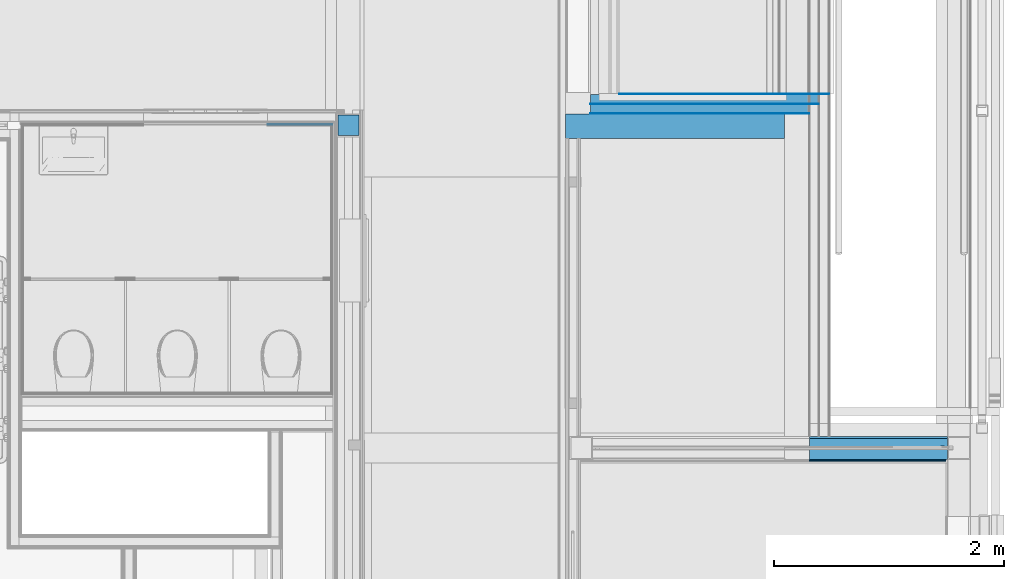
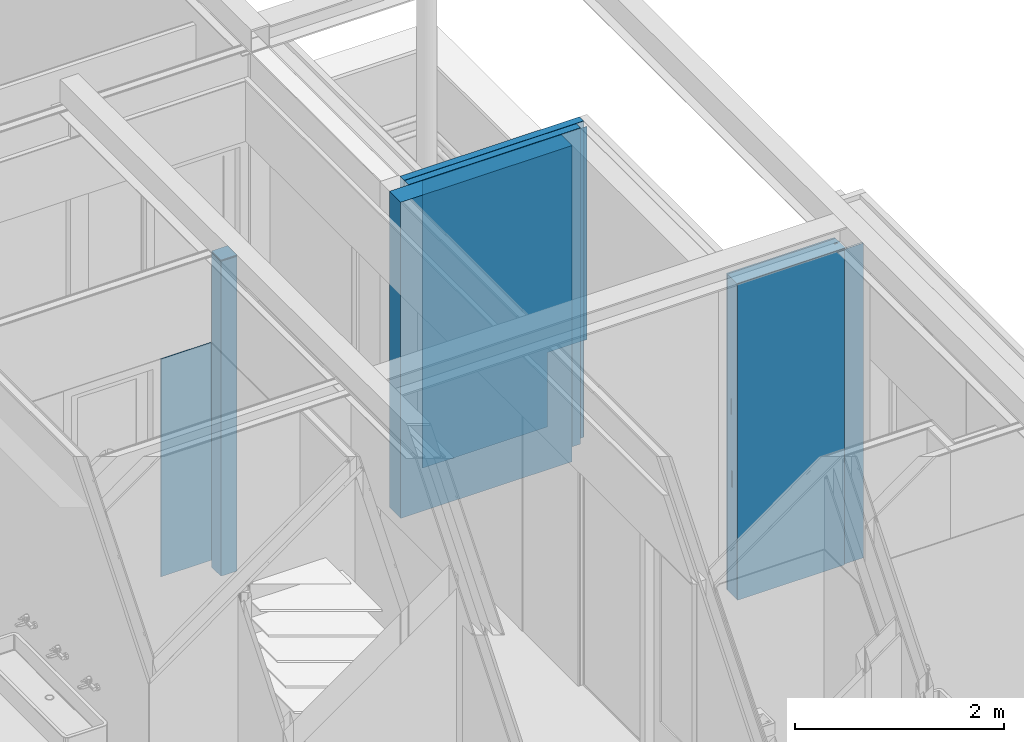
# One storey, part 88 of 137: 12 building element parts, 4 elements without a shape of their own.
"""IFC2X3 building model written with IfcOpenShell, lengths in millimetres."""

from ifc_helpers import new_model, entity, si_unit, converted_unit, derived_unit, money_unit, direction, frame, origin_with_axes, place, context, subcontext, project, spatial, faceted_brep, material, type_object, element, aggregate, save


model = new_model("IFC2X3")

# Units and contexts
model_context = context("Model", 3, precision=0.01, world=origin_with_axes(), true_north=direction((0.0, 1.0)))
body_context = subcontext(model_context, "Body", "Model", "MODEL_VIEW")
ifc_project = project(units=[si_unit("LENGTHUNIT", "METRE", prefix="MILLI"), si_unit("AREAUNIT", "SQUARE_METRE"), si_unit("VOLUMEUNIT", "CUBIC_METRE"), converted_unit("PLANEANGLEUNIT", "DEGREE", entity("IfcPlaneAngleMeasure", 0.0174532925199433), si_unit("PLANEANGLEUNIT", "RADIAN"), dimensions=[0, 0, 0, 0, 0, 0, 0]), money_unit("EUR"), converted_unit("TIMEUNIT", "Year", entity("IfcTimeMeasure", 31556926.0), si_unit("TIMEUNIT", "SECOND"), dimensions=[0, 0, 1, 0, 0, 0, 0]), si_unit("MASSUNIT", "GRAM", prefix="KILO"), si_unit("THERMODYNAMICTEMPERATUREUNIT", "DEGREE_CELSIUS"), si_unit("LUMINOUSINTENSITYUNIT", "LUMEN"), si_unit("ENERGYUNIT", "JOULE", prefix="MEGA"), derived_unit("THERMALCONDUCTANCEUNIT", [(si_unit("POWERUNIT", "WATT"), 1), (si_unit("LENGTHUNIT", "METRE"), -1), (si_unit("THERMODYNAMICTEMPERATUREUNIT", "KELVIN"), -1)]), derived_unit("SPECIFICHEATCAPACITYUNIT", [(si_unit("ENERGYUNIT", "JOULE"), 1), (si_unit("MASSUNIT", "GRAM", prefix="KILO"), -1), (si_unit("THERMODYNAMICTEMPERATUREUNIT", "KELVIN"), -1)]), derived_unit("MASSDENSITYUNIT", [(si_unit("MASSUNIT", "GRAM", prefix="KILO"), 1), (si_unit("VOLUMEUNIT", "CUBIC_METRE"), -1)])], contexts=[model_context])

# Site, building, storey
site_placement = place(None, origin_with_axes())
site = spatial("IfcSite", under=ifc_project, at=site_placement, Name="Site", CompositionType="ELEMENT")
building_placement = place(site_placement, origin_with_axes())
building = spatial("IfcBuilding", under=site, at=building_placement, Name="Naam gebouw", CompositionType="ELEMENT")
storey_placement = place(building_placement, frame((0.0, 0.0, 3960.0), z_axis=(0.0, 0.0, 1.0), x_axis=(1.0, 0.0, 0.0)))
storey = spatial("IfcBuildingStorey", under=building, at=storey_placement, Name="1e verdieping", CompositionType="ELEMENT", Elevation=3960.0)

# Wall, building element parts
wall_type_1 = type_object("IfcWallType", Name="21 STO Buitengevelisolatie 160 390", PredefinedType="NOTDEFINED")
wall_1_placement = place(storey_placement, frame((26600.0, 19550.00039292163, -100.0000000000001), z_axis=(0.0, 0.0, 1.0), x_axis=(1.0, 0.0, 0.0)))
wall_1 = element("IfcWall", 1, at=wall_1_placement, inside=storey, type_object=wall_type_1, Name="21_Wand-x")
ifc_material_1 = material(Name="STO pleisterlaag")
building_element_part_1_placement = place(wall_1_placement, origin_with_axes())
building_element_part_1 = element("IfcBuildingElementPart", 2, at=building_element_part_1_placement, material=ifc_material_1, Name="STO pleisterlaag", context=body_context, shape_type="Brep", body=[
    faceted_brep([(1637.000023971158, 173.0000000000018, 189.9999999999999), (1637.000023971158, 176.0000000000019, 189.9999999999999), (1637.000023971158, 176.0000000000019, 1060.000062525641), (1637.000023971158, 173.0000000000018, 1060.000062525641), (250.0000001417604, 176.0000000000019, 189.9999999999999), (250.0000001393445, 172.9999999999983, 189.9999999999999), (250.0000001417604, 176.0000000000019, 3555.0), (2073.000023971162, 176.0000096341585, 3555.0), (2073.000023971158, 176.0000014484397, 1060.000062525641), (2073.000023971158, 173.0000000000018, 1060.000062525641), (2073.000023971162, 173.0000000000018, 3555.0), (250.0000001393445, 173.0000000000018, 3555.0)], [[[0, 1, 2, 3]], [[4, 1, 0, 5]], [[1, 4, 6, 7, 8, 2]], [[9, 3, 2, 8]], [[5, 0, 3, 9, 10, 11]], [[4, 5, 11, 6]], [[11, 10, 7, 6]], [[8, 7, 10, 9]]]),
])
ifc_material_2 = material(Name="STO weefsellaag")
building_element_part_2_placement = place(wall_1_placement, origin_with_axes())
building_element_part_2 = element("IfcBuildingElementPart", 3, at=building_element_part_2_placement, material=ifc_material_2, Name="STO weefsellaag", context=body_context, shape_type="Brep", body=[
    faceted_brep([(1637.000023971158, 167.9999999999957, 189.9999999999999), (1637.000023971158, 173.0000000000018, 189.9999999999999), (1637.000023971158, 173.0000000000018, 1060.000062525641), (1637.000023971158, 167.9999999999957, 1060.000062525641), (250.0000001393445, 172.9999999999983, 189.9999999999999), (250.0000001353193, 167.9999999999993, 189.9999999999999), (250.0000001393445, 173.0000000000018, 3555.0), (2068.000023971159, 173.0000000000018, 3555.0), (2068.000023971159, 173.0000000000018, 1060.000062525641), (1988.000023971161, 167.9999999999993, 1060.000062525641), (2068.000023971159, 167.9999999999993, 1060.000062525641), (2068.000023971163, 168.0000000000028, 3555.0), (250.0000001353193, 168.0000000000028, 3555.0)], [[[0, 1, 2, 3]], [[4, 1, 0, 5]], [[1, 4, 6, 7, 8, 2]], [[9, 3, 2, 8, 10]], [[5, 0, 3, 9, 10, 11, 12]], [[4, 5, 12, 6]], [[12, 11, 7, 6]], [[8, 7, 11, 10]]]),
])
ifc_material_3 = material(Name="Isolatie - STO EPS")
building_element_part_3_placement = place(wall_1_placement, origin_with_axes())
building_element_part_3 = element("IfcBuildingElementPart", 4, at=building_element_part_3_placement, material=ifc_material_3, Name="Isolatie - STO EPS", context=body_context, shape_type="Brep", body=[
    faceted_brep([(76.99999999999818, 167.9999999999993, 189.9999999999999), (76.99999999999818, 167.9999999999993, 0.0), (1.353193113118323e-07, 167.9999999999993, 0.0), (1.353193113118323e-07, 167.9999999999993, 3700.0), (1988.000023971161, 167.9999999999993, 3700.0), (1988.000023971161, 167.9999999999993, 0.0), (1704.000023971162, 167.9999999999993, 0.0), (1704.000023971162, 167.9999999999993, 189.9999999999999), (76.99999999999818, 114.0000000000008, 189.9999999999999), (76.99999999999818, 114.0000000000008, 0.0), (1704.000023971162, 114.0000000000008, 0.0), (1988.000023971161, 88.00000000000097, 0.0), (7.08801906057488e-08, 88.00000000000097, 0.0), (7.08801906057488e-08, 88.00000000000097, 3700.0), (1988.000023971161, 88.00000000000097, 3700.0), (1704.000023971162, 114.0000000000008, 189.9999999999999)], [[[0, 1, 2, 3, 4, 5, 6, 7]], [[1, 0, 8, 9]], [[10, 6, 5, 11, 12, 2, 1, 9]], [[2, 12, 13, 3]], [[3, 13, 14, 4]], [[11, 5, 4, 14]], [[7, 6, 10, 15]], [[0, 7, 15, 8]], [[10, 9, 8, 15]], [[12, 11, 14, 13]]]),
])
building_element_part_4_placement = place(wall_1_placement, origin_with_axes())
building_element_part_4 = element("IfcBuildingElementPart", 5, at=building_element_part_4_placement, material=ifc_material_3, Name="Isolatie - STO EPS", context=body_context, shape_type="Brep", body=[
    faceted_brep([(6.765787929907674e-08, 83.99999999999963, 0.0), (6.765787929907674e-08, 83.99999999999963, 3700.0), (1904.000023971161, 83.99999999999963, 3700.0), (1904.000023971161, 83.99999999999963, 0.0), (3.222311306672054e-09, 4.000000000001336, 0.0), (3.222311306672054e-09, 4.000000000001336, 3700.0), (1904.000023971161, 4.000000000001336, 3700.0), (1904.000023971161, 4.000000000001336, 0.0)], [[[0, 1, 2, 3]], [[4, 5, 1, 0]], [[5, 6, 2, 1]], [[3, 2, 6, 7]], [[4, 0, 3, 7]], [[7, 6, 5, 4]]]),
])
ifc_material_4 = material(Name="STO lijmlaag")
building_element_part_5_placement = place(wall_1_placement, origin_with_axes())
building_element_part_5 = element("IfcBuildingElementPart", 6, at=building_element_part_5_placement, material=ifc_material_4, Name="STO lijmlaag", context=body_context, shape_type="Brep", body=[
    faceted_brep([(7.08801906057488e-08, 88.00000000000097, 0.0), (7.08801906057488e-08, 88.00000000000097, 3700.0), (1984.000023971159, 88.00000000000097, 3700.0), (1984.000023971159, 88.00000000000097, 0.0), (6.765787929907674e-08, 83.99999999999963, 0.0), (6.765787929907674e-08, 83.99999999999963, 3700.0), (1984.000023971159, 83.99999999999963, 3700.0), (1984.000023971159, 83.99999999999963, 0.0)], [[[0, 1, 2, 3]], [[4, 5, 1, 0]], [[5, 6, 2, 1]], [[3, 2, 6, 7]], [[4, 0, 3, 7]], [[7, 6, 5, 4]]]),
])
ifc_material_5 = material(Name="Steen - Kalkzandsteen C")
building_element_part_6_placement = place(wall_1_placement, origin_with_axes())
building_element_part_6 = element("IfcBuildingElementPart", 7, at=building_element_part_6_placement, material=ifc_material_5, Name="Steen - Kalkzandsteen C", context=body_context, shape_type="Brep", body=[
    faceted_brep([(-213.9999999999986, 0.0, 0.0), (-213.9999999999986, 0.0, 3700.0), (1686.000023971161, 0.0, 3700.0), (1686.000023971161, 0.0, 0.0), (-214.0000001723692, -213.9999999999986, 0.0), (-214.0000001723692, -213.9999999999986, 3700.0), (1686.000023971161, -213.9999999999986, 3700.0), (1686.000023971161, -213.9999999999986, 0.0)], [[[0, 1, 2, 3]], [[4, 5, 1, 0]], [[5, 6, 2, 1]], [[3, 2, 6, 7]], [[4, 0, 3, 7]], [[7, 6, 5, 4]]]),
])
building_element_part_7_placement = place(wall_1_placement, origin_with_axes())
building_element_part_7 = element("IfcBuildingElementPart", 8, at=building_element_part_7_placement, material=ifc_material_4, Name="STO lijmlaag", context=body_context, shape_type="Brep", body=[
    faceted_brep([(3.222311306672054e-09, 4.000000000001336, 0.0), (3.222311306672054e-09, 4.000000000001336, 3700.0), (1900.00002397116, 4.000000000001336, 3700.0), (1900.00002397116, 4.000000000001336, 0.0), (0.0, 0.0, 0.0), (0.0, 0.0, 3700.0), (1900.00002397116, 0.0, 3700.0), (1900.00002397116, 0.0, 0.0)], [[[0, 1, 2, 3]], [[4, 5, 1, 0]], [[5, 6, 2, 1]], [[3, 2, 6, 7]], [[4, 0, 3, 7]], [[7, 6, 5, 4]]]),
])
aggregate(wall_1, [building_element_part_1, building_element_part_2, building_element_part_3, building_element_part_4, building_element_part_5, building_element_part_6, building_element_part_7])

wall_type_2 = type_object("IfcWallType", Name="21 Buitenwand spouwmuur HSB 464", PredefinedType="NOTDEFINED")
wall_2_placement = place(storey_placement, frame((28500.00002397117, 16749.99778166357, -100.0000000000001), z_axis=(0.0, 0.0, 1.0), x_axis=(1.0, 0.0, 0.0)))
wall_2 = element("IfcWall", 9, at=wall_2_placement, inside=storey, type_object=wall_type_2, Name="21_Wand-x")
ifc_material_6 = material(Name="ALG - ISOLATIE UITVULLING")
building_element_part_8_placement = place(wall_2_placement, origin_with_axes())
building_element_part_8 = element("IfcBuildingElementPart", 10, at=building_element_part_8_placement, material=ifc_material_6, Name="ALG - ISOLATIE UITVULLING", context=body_context, shape_type="Brep", body=[
    faceted_brep([(1199.999976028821, -84.99999999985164, 3584.560364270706), (1199.999976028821, -84.99999999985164, 3680.000000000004), (1193.814908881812, -84.99999999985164, 3685.000001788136), (1126.888670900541, -84.99999999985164, 3685.000001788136), (0.0, -84.99999999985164, 2291.024080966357), (0.0, -84.99999999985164, 2100.144809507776), (1199.999976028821, -18.00000000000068, 0.0), (1199.999976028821, -18.00000000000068, 3685.000001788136), (1199.999976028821, -200.0000000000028, 3685.000001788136), (1199.999976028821, -200.0000000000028, 0.0), (1199.999976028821, -99.99999999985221, 3680.000000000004), (1199.999976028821, -99.99999999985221, 3584.560364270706), (1193.814908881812, -99.99999999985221, 3685.000001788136), (1100.999971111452, -18.00000000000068, 3685.000001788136), (1100.999971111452, -201.9999999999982, 3685.000001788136), (1399.999976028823, -201.9999999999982, 3685.000001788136), (1399.999976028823, -200.0000000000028, 3685.000001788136), (1126.888670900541, -99.99999999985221, 3685.000001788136), (0.0, -99.99999999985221, 2291.024080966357), (0.0, -18.00000000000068, 0.0), (0.0, -202.0000000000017, 0.0), (0.0, -201.9999999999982, 3700.0), (0.0, -18.00000000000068, 3700.0), (0.0, -99.99999999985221, 2100.144809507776), (0.0, -115.000000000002, 1449.855190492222), (0.0, -115.000000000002, 1258.975919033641), (0.0, -100.0000000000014, 1258.975919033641), (0.0, -100.0000000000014, 1449.855190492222), (1198.999975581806, -18.00000000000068, 3700.0), (1198.999975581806, -18.00000000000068, 3695.000001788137), (1100.999971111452, -18.00000000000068, 3695.000001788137), (1399.999976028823, -200.0000000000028, 0.0), (1399.999976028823, -201.9999999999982, 0.0), (1017.754811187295, -100.0000000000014, 0.0), (1017.754811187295, -115.000000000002, 0.0), (1172.061413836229, -115.000000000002, 0.0), (1172.061413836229, -100.0000000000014, 0.0), (1100.999971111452, -201.9999999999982, 3695.000001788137), (1198.999975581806, -201.9999999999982, 3695.000001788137), (1198.999975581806, -201.9999999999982, 3700.0), (1175.259716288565, -99.99999999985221, 3700.0), (1139.014653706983, -99.99999999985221, 3700.0), (1139.014653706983, -84.99999999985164, 3700.0), (1175.259716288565, -84.99999999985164, 3700.0), (1134.972660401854, -99.99999999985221, 3695.000001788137), (1181.444779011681, -99.99999999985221, 3695.000001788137), (1181.444779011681, -84.99999999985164, 3695.000001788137), (1134.972660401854, -84.99999999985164, 3695.000001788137)], [[[0, 1, 2, 3, 4, 5]], [[6, 7, 8, 9], [10, 1, 0, 11]], [[1, 10, 12, 2]], [[8, 7, 13, 14, 15, 16], [17, 3, 2, 12]], [[4, 3, 17, 18]], [[19, 20, 21, 22], [18, 23, 5, 4], [24, 25, 26, 27]], [[11, 0, 5, 23]], [[7, 6, 19, 22, 28, 29, 30, 13]], [[8, 16, 31, 9]], [[9, 31, 32, 20, 19, 6], [33, 34, 35, 36]], [[10, 11, 23, 18, 17, 12]], [[14, 13, 30, 37]], [[37, 38, 39, 21, 20, 32, 15, 14]], [[31, 16, 15, 32]], [[21, 39, 28, 22], [40, 41, 42, 43]], [[24, 35, 34, 25]], [[25, 34, 33, 26]], [[26, 33, 36, 27]], [[27, 36, 35, 24]], [[38, 29, 28, 39]], [[37, 30, 29, 38], [44, 45, 46, 47]], [[40, 45, 44, 41]], [[41, 44, 47, 42]], [[42, 47, 46, 43]], [[43, 46, 45, 40]]]),
    faceted_brep([(1394.999975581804, -200.0000000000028, 3695.000001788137), (1394.999975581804, -200.0000000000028, 3699.999999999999), (1394.999975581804, -201.9999999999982, 3700.0), (1394.999975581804, -201.9999999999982, 3695.000001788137), (1204.999975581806, -200.0000000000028, 3699.999999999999), (1204.999975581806, -200.0000000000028, 3695.000001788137), (1204.999975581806, -201.9999999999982, 3700.0), (1204.999975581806, -201.9999999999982, 3695.000001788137)], [[[0, 1, 2, 3]], [[4, 1, 0, 5]], [[1, 4, 6, 2]], [[7, 3, 2, 6]], [[5, 0, 3, 7]], [[4, 5, 7, 6]]]),
])
building_element_part_9_placement = place(wall_2_placement, origin_with_axes())
building_element_part_9 = element("IfcBuildingElementPart", 11, at=building_element_part_9_placement, material=ifc_material_5, Name="Steen - Kalkzandsteen C", context=body_context, shape_type="Brep", body=[
    faceted_brep([(1185.999976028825, -213.9999999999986, 3695.000001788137), (1185.999976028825, -201.9999999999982, 3695.000001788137), (1185.999976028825, -201.9999999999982, 3700.0), (1185.999976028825, -213.9999999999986, 3700.0), (1100.999971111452, -201.9999999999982, 3695.000001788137), (1100.999971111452, -213.9999999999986, 3695.000001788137), (1100.999971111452, -201.9999999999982, 3685.000001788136), (1185.999976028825, -201.9999999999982, 3685.000001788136), (1185.999976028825, -201.9999999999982, 0.0), (0.0, -202.0000000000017, 0.0), (0.0, -201.9999999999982, 3700.0), (0.0, -213.9999999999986, 3700.0), (0.0, -213.9999999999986, 0.0), (1185.999976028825, -213.9999999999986, 0.0), (1185.999976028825, -213.9999999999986, 3685.000001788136), (1100.999971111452, -213.9999999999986, 3685.000001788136)], [[[0, 1, 2, 3]], [[4, 1, 0, 5]], [[6, 7, 8, 9, 10, 2, 1, 4]], [[11, 3, 2, 10]], [[5, 0, 3, 11, 12, 13, 14, 15]], [[6, 4, 5, 15]], [[14, 7, 6, 15]], [[7, 14, 13, 8]], [[9, 8, 13, 12]], [[12, 11, 10, 9]]]),
])
ifc_material_7 = material(Name="Cementgebonden plaatmateriaal")
building_element_part_10_placement = place(wall_2_placement, origin_with_axes())
building_element_part_10 = element("IfcBuildingElementPart", 12, at=building_element_part_10_placement, material=ifc_material_7, Name="Cementgebonden plaatmateriaal", context=body_context, shape_type="Brep", body=[
    faceted_brep([(1199.999976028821, -18.00000000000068, 3685.000001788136), (1199.999976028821, 0.0, 3685.000001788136), (1100.999971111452, 0.0, 3685.000001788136), (1100.999971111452, -18.00000000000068, 3685.000001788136), (1199.999976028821, 0.0, 0.0), (1199.999976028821, -18.00000000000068, 0.0), (0.0, 0.0, 0.0), (0.0, 0.0, 3700.0), (1198.999975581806, 0.0, 3700.0), (1198.999975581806, 0.0, 3695.000001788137), (1100.999971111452, 0.0, 3695.000001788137), (1100.999971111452, -18.00000000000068, 3695.000001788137), (1198.999975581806, -18.00000000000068, 3695.000001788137), (1198.999975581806, -18.00000000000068, 3700.0), (0.0, -18.00000000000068, 3700.0), (0.0, -18.00000000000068, 0.0)], [[[0, 1, 2, 3]], [[4, 1, 0, 5]], [[1, 4, 6, 7, 8, 9, 10, 2]], [[3, 2, 10, 11]], [[5, 0, 3, 11, 12, 13, 14, 15]], [[4, 5, 15, 6]], [[6, 15, 14, 7]], [[14, 13, 8, 7]], [[12, 9, 8, 13]], [[11, 10, 9, 12]]]),
])
aggregate(wall_2, [building_element_part_8, building_element_part_9, building_element_part_10])

# Column, building element part
column_type = type_object("IfcColumnType", Name="200X200X10 200 x 200", PredefinedType="COLUMN")
column_placement = place(storey_placement, frame((24499.98347325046, 19450.00039292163, -100.0000000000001), z_axis=(0.0, 0.0, 1.0), x_axis=(1.0, 0.0, 0.0)))
column = element("IfcColumn", 13, at=column_placement, inside=storey, type_object=column_type, Name="28_Kolom-x", ObjectType="COLUMN")
ifc_material_8 = material(Name="Beton gewapend C")
building_element_part_11_placement = place(column_placement, origin_with_axes())
building_element_part_11 = element("IfcBuildingElementPart", 14, at=building_element_part_11_placement, material=ifc_material_8, Name="Beton gewapend C", context=body_context, shape_type="Brep", body=[
    faceted_brep([(-89.99999999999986, 89.99999999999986, 3685.000029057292), (89.99999999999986, 89.99999999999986, 3685.000029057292), (89.99999999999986, 89.99999999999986, 0.0), (-89.99999999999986, 89.99999999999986, 0.0), (89.99999999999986, -89.99999999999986, 3685.000029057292), (-89.99999999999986, -89.99999999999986, 3685.000029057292), (89.99999999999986, -89.99999999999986, 0.0), (-89.99999999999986, -89.99999999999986, 0.0)], [[[0, 1, 2, 3]], [[4, 1, 0, 5]], [[1, 4, 6, 2]], [[2, 6, 7, 3]], [[5, 0, 3, 7]], [[4, 5, 7, 6]]]),
    faceted_brep([(89.99999999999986, -89.99999999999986, 3695.000029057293), (89.99999999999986, 89.99999999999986, 3695.000029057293), (89.99999999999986, 89.99999999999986, 3699.999999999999), (89.99999999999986, -89.99999999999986, 3699.999999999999), (-89.99999999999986, 89.99999999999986, 3695.000029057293), (-89.99999999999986, -89.99999999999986, 3695.000029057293), (-89.99999999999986, 89.99999999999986, 3699.999999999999), (-89.99999999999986, -89.99999999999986, 3699.999999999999)], [[[0, 1, 2, 3]], [[4, 1, 0, 5]], [[1, 4, 6, 2]], [[2, 6, 7, 3]], [[5, 0, 3, 7]], [[4, 5, 7, 6]]]),
])
aggregate(column, [building_element_part_11])

# Proxy, building element part
building_element_proxy_type = type_object("IfcBuildingElementProxyType", Name="42 Tegelwerk 2600+ 12 x 2600", PredefinedType="NOTDEFINED")
proxy_placement = place(storey_placement, frame((24344.99903999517, 19439.9998112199, 0.0), z_axis=(0.0, 0.0, 1.0), x_axis=(-1.0, 0.0, 0.0)))
proxy = element("IfcBuildingElementProxy", 15, at=proxy_placement, inside=storey, type_object=building_element_proxy_type, Name="_Wand-x")
ifc_material_9 = material(Name="21 STO lijmlaag")
building_element_part_12_placement = place(proxy_placement, origin_with_axes())
building_element_part_12 = element("IfcBuildingElementPart", 16, at=building_element_part_12_placement, material=ifc_material_9, Name="21 STO lijmlaag", context=body_context, shape_type="Brep", body=[
    faceted_brep([(-13.00000447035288, -13.00000447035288, 2600.0), (-13.00000447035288, -19.99999552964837, 2600.0), (545.0078311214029, -19.99999552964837, 2600.0), (545.0078311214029, -13.00000447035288, 2600.0), (-13.00000447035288, -19.99999552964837, 49.99999999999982), (-13.00000447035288, -13.00000447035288, 49.99999999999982), (-13.00000447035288, -14.99999850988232, 49.99999999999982), (545.0078311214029, -19.99999552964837, 49.99999999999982), (545.0078311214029, -14.99999850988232, 50.00000596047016), (545.0078311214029, -13.00000447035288, 49.99999999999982)], [[[0, 1, 2, 3]], [[4, 1, 0, 5, 6]], [[1, 4, 7, 2]], [[7, 8, 9, 3, 2]], [[5, 0, 3, 9]], [[6, 5, 9, 8]], [[4, 6, 8, 7]]]),
])
aggregate(proxy, [building_element_part_12])

save(model, "model.ifc")
